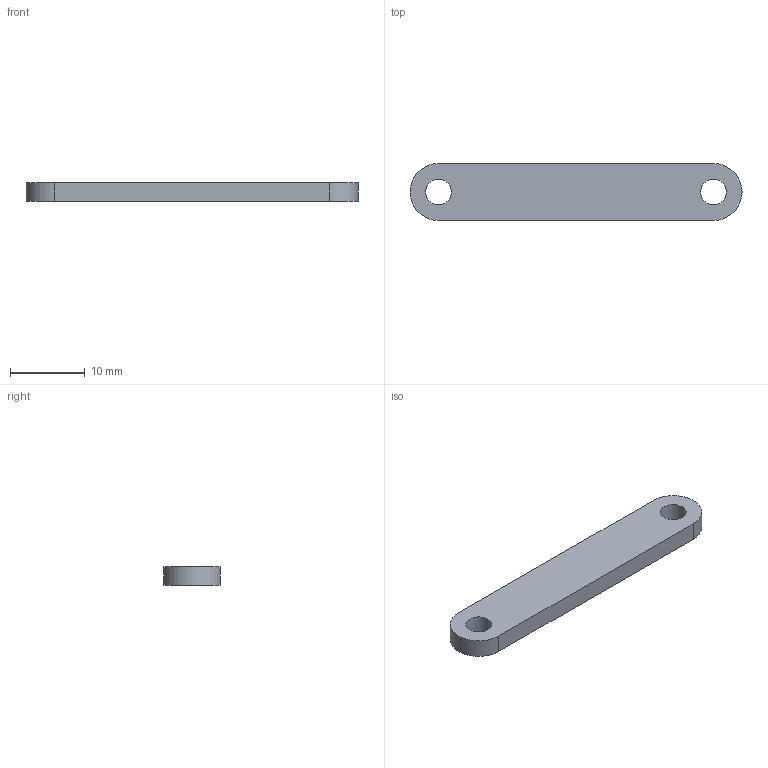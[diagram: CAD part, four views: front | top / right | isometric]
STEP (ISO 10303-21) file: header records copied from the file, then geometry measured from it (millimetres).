
FILE_DESCRIPTION (( 'STEP AP203' ), '1' );
FILE_NAME ('Speaker Bracket.step', '2015-03-14T23:36:34', ( '' ), ( '' ), 'SwSTEP 2.0', 'SolidWorks 2013', '' );
FILE_SCHEMA (( 'CONFIG_CONTROL_DESIGN' ));
Length unit declared in the file: inch
Products named in the file (1): Speaker Bracket
Bounding box: 44.45 x 7.62 x 2.54 mm (x, y, z)
Volume: 781.1 mm3; surface area: 918 mm2
Topology: 1 solids, 1 shells, 8 faces, 18 edges, 12 vertices
Faces by surface type: cylinder 4, plane 4
Full cylindrical faces by diameter (mm): 3.454 x2
Entity records: 307 total; most frequent: DIRECTION 42, CARTESIAN_POINT 37, ORIENTED_EDGE 32, AXIS2_PLACEMENT_3D 17, EDGE_CURVE 16, EDGE_LOOP 14, VERTEX_POINT 12, FACE_OUTER_BOUND 10
